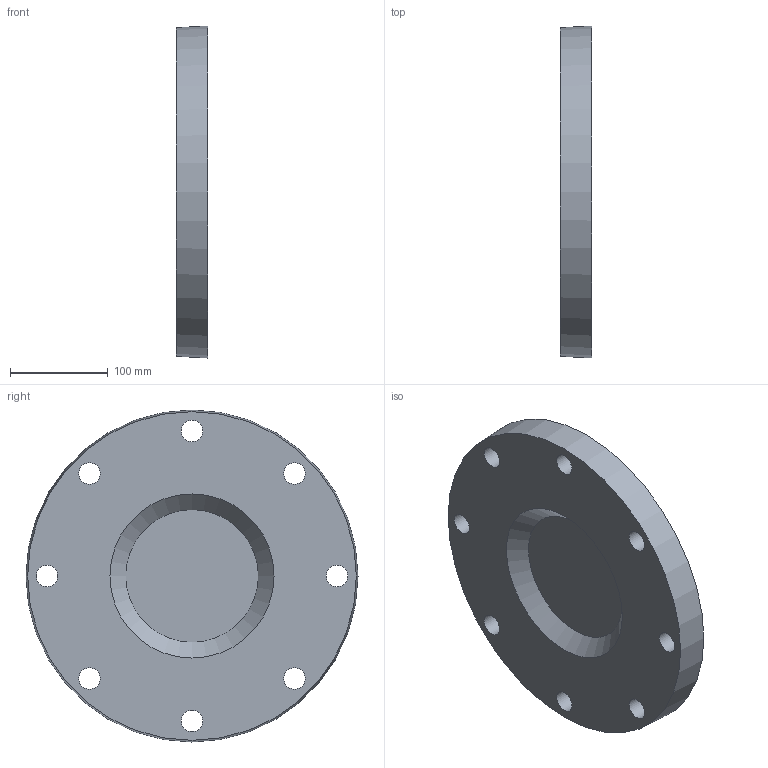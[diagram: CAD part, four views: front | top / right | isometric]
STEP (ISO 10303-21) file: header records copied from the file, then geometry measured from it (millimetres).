
FILE_DESCRIPTION(/* description */ ('PLASSON BLANK FLANGE PVC 200'),/* implementation_level */ '2;1');
FILE_NAME(/* name */ 'C:\Dropbox\KIMPROJECTS-Inventor\99-16-3568-Processing\PVC Catalog 2017\059100\059100200.ipt.stp',/* time_stamp */ '2017-12-07T16:06:55+02:00',/* author */ ('KIM'),/* organization */ (''),/* preprocessor_version */ 'ST-DEVELOPER v15.6',/* originating_system */ 'Autodesk Inventor 2015',/* authorisation */ '');
FILE_SCHEMA (('AUTOMOTIVE_DESIGN { 1 0 10303 214 3 1 1 }'));
Length unit declared in the file: millimetre
Products named in the file (1): 059100200
Bounding box: 32 x 340 x 340 mm (x, y, z)
Volume: 2486094.2 mm3; surface area: 230463.1 mm2
Topology: 1 solids, 1 shells, 25 faces, 48 edges, 32 vertices
Faces by surface type: cylinder 14, plane 9, cone 2
Full cylindrical faces by diameter (mm): 22 x8, 136 x1, 139.4 x1, 142.8 x1, 146.2 x1, 149.6 x1, 153 x1
Entity records: 630 total; most frequent: DIRECTION 116, CARTESIAN_POINT 90, EDGE_LOOP 64, ORIENTED_EDGE 64, AXIS2_PLACEMENT_3D 58, FACE_BOUND 39, CIRCLE 32, VERTEX_POINT 32
